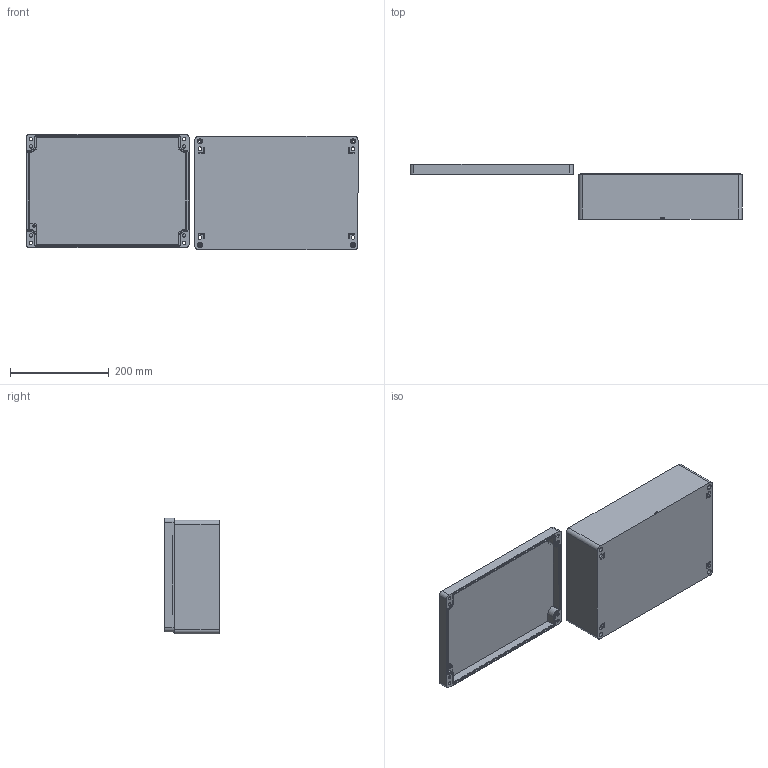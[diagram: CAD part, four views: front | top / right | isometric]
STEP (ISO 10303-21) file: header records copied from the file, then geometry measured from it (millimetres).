
FILE_DESCRIPTION (( 'STEP AP203' ), '1' );
FILE_NAME ('ZX-AL-233311_装配体.STEP', '2022-01-24T09:23:33', ( '微软用户' ), ( '微软中国' ), 'SwSTEP 2.0', 'SolidWorks 2020', '' );
FILE_SCHEMA (( 'CONFIG_CONTROL_DESIGN' ));
Length unit declared in the file: millimetre
Products named in the file (3): ZX-AL-233311_奻; ZX-AL-233311_蚾饜极; ZX-AL-233311_狟
Assembly tree (2 placements, depth 2):
  ZX-AL-233311_蚾饜极
    ZX-AL-233311_狟
    ZX-AL-233311_奻
Bounding box: 671.9 x 112.09 x 234.36 mm (x, y, z)
Volume: 1251249.2 mm3; surface area: 568586.6 mm2
Topology: 2 solids, 2 shells, 713 faces, 1906 edges, 1225 vertices
Faces by surface type: plane 342, cylinder 180, bspline 123, cone 68
Entity records: 27835 total; most frequent: CARTESIAN_POINT 10470, ORIENTED_EDGE 3752, DIRECTION 3146, EDGE_CURVE 1876, LINE 1256, VECTOR 1256, VERTEX_POINT 1225, AXIS2_PLACEMENT_3D 945
